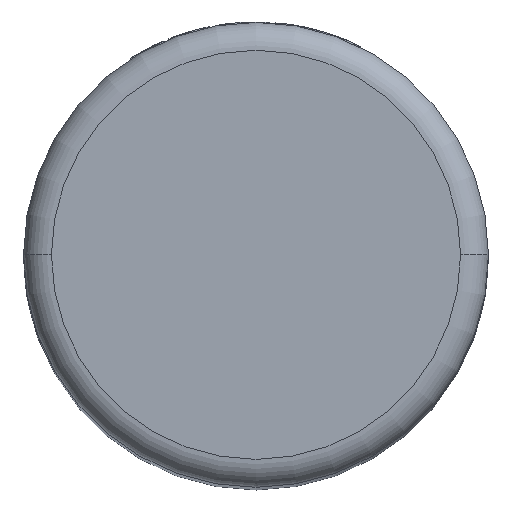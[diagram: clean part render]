
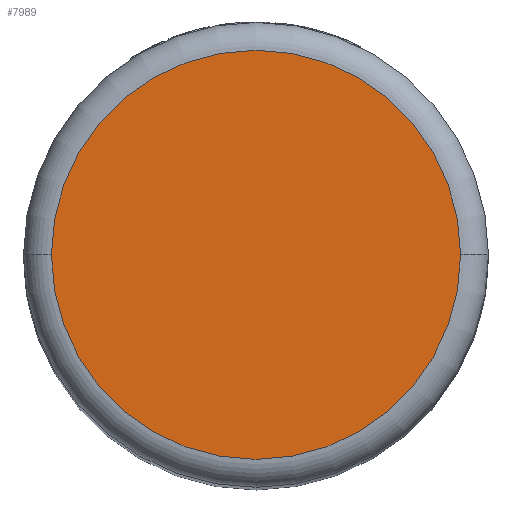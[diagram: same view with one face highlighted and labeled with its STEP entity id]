
A CAD part, top view. The second image highlights one B-rep face of the part: STEP entity #7989.
In plain terms, the highlighted planar face has unit normal (0, 0, 1).
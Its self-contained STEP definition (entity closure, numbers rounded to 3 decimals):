
#1=CARTESIAN_POINT('',(0.,0.,83.5));
#2=DIRECTION('',(0.,0.,1.));
#3=DIRECTION('',(-1.,0.,0.));
#4=AXIS2_PLACEMENT_3D('',#1,#2,#3);
#6=CARTESIAN_POINT('',(0.,0.,83.5));
#7=DIRECTION('',(0.,0.,1.));
#8=DIRECTION('',(1.,0.,0.));
#9=AXIS2_PLACEMENT_3D('',#6,#7,#8);
#7048=CARTESIAN_POINT('',(-22.,0.,83.5));
#7049=CARTESIAN_POINT('',(22.,0.,83.5));
#7050=VERTEX_POINT('',#7048);
#7051=VERTEX_POINT('',#7049);
#7978=CARTESIAN_POINT('',(0.,0.,83.5));
#7979=DIRECTION('',(0.,0.,1.));
#7980=DIRECTION('',(1.,0.,0.));
#7981=AXIS2_PLACEMENT_3D('',#7978,#7979,#7980);
#7982=PLANE('',#7981);
#7984=ORIENTED_EDGE('',*,*,#7983,.F.);
#7986=ORIENTED_EDGE('',*,*,#7985,.F.);
#7987=EDGE_LOOP('',(#7984,#7986));
#7988=FACE_OUTER_BOUND('',#7987,.F.);
#7989=ADVANCED_FACE('',(#7988),#7982,.T.);
#5=CIRCLE('',#4,22.);
#10=CIRCLE('',#9,22.);
#7983=EDGE_CURVE('',#7050,#7051,#5,.T.);
#7985=EDGE_CURVE('',#7051,#7050,#10,.T.);
